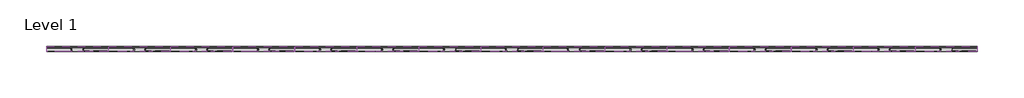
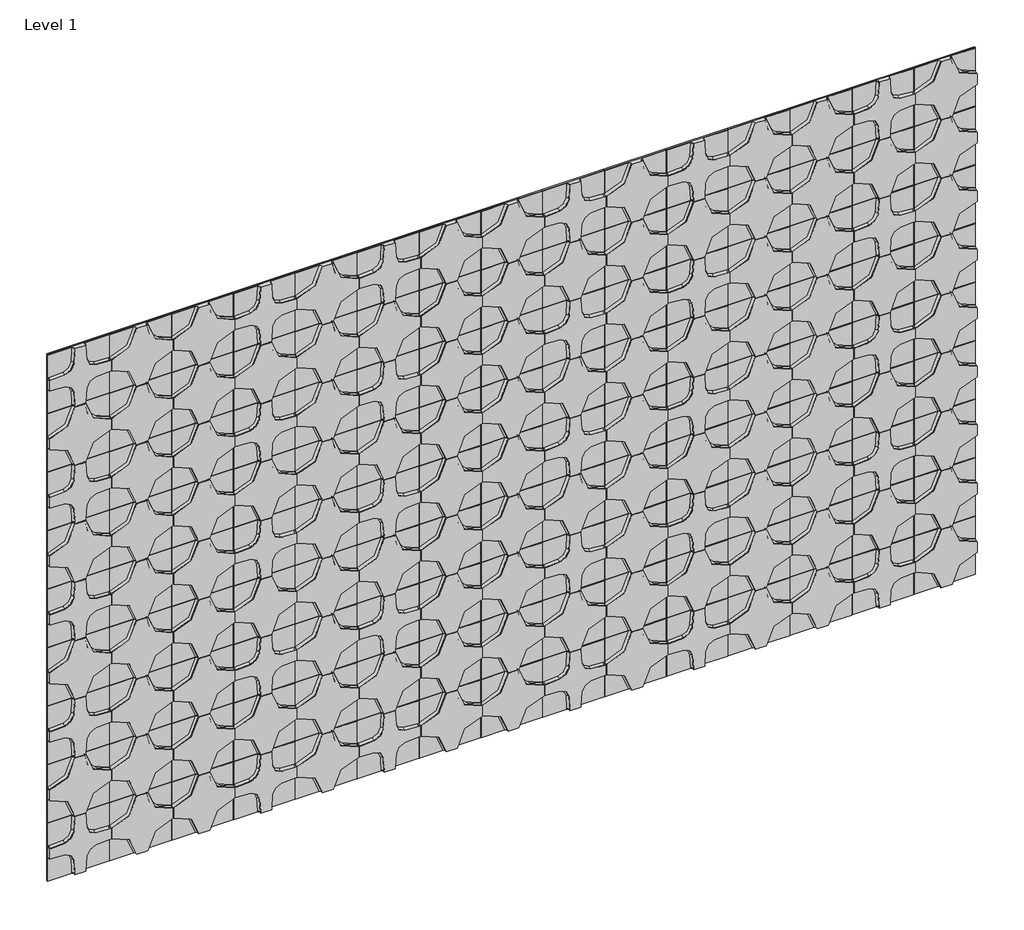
# One storey: 135 proxies.
"""IFC4 building model written with IfcOpenShell, lengths in millimetres."""

from ifc_helpers import new_model, si_unit, origin, place, context, project, spatial, transform, mapped, element, save
from components import specialty_equipment_d3eebbf5, specialty_equipment_d5421138

model = new_model("IFC4")

# Units and contexts
model_context = context("Model", 3, world=origin())
ifc_project = project(units=[si_unit("LENGTHUNIT", "METRE", prefix="MILLI")], contexts=[model_context])

# Site, building, storey
site = spatial("IfcSite", under=ifc_project)
building = spatial("IfcBuilding", under=site)
storey = spatial("IfcBuildingStorey", under=building, Name="Level 1", Elevation=0.0)

# Proxies
placement = place(None, origin())
specialty_equipment_shape = specialty_equipment_d3eebbf5(model_context)
element("IfcBuildingElementProxy", 1, Name="Spinneybeck_Quartile : Quartile 1", ObjectType="Spinneybeck_Quartile : Quartile 1", at=placement, inside=storey, context=model_context, shape_type="MappedRepresentation", body=[
    mapped(specialty_equipment_shape, transform((-9133.2606366, 2074.1714817, 2286.0), x_axis=(1.0, 0.0, 0.0), y_axis=(0.0, 0.0, 1.0), z_axis=(0.0, -1.0, 0.0))),
])
element("IfcBuildingElementProxy", 2, Name="Spinneybeck_Quartile : Quartile 1", ObjectType="Spinneybeck_Quartile : Quartile 1", at=placement, inside=storey, context=model_context, shape_type="MappedRepresentation", body=[
    mapped(specialty_equipment_shape, transform((-8828.4606366, 2074.1714817, 2286.0), x_axis=(1.0, 0.0, 0.0), y_axis=(0.0, 0.0, 1.0), z_axis=(0.0, -1.0, 0.0))),
])
element("IfcBuildingElementProxy", 3, Name="Spinneybeck_Quartile : Quartile 1", ObjectType="Spinneybeck_Quartile : Quartile 1", at=placement, inside=storey, context=model_context, shape_type="MappedRepresentation", body=[
    mapped(specialty_equipment_shape, transform((-8523.6606366, 2074.1714817, 2286.0), x_axis=(1.0, 0.0, 0.0), y_axis=(0.0, 0.0, 1.0), z_axis=(0.0, -1.0, 0.0))),
])
element("IfcBuildingElementProxy", 4, Name="Spinneybeck_Quartile : Quartile 1", ObjectType="Spinneybeck_Quartile : Quartile 1", at=placement, inside=storey, context=model_context, shape_type="MappedRepresentation", body=[
    mapped(specialty_equipment_shape, transform((-8218.8606366, 2074.1714817, 2286.0), x_axis=(1.0, 0.0, 0.0), y_axis=(0.0, 0.0, 1.0), z_axis=(0.0, -1.0, 0.0))),
])
element("IfcBuildingElementProxy", 5, Name="Spinneybeck_Quartile : Quartile 1", ObjectType="Spinneybeck_Quartile : Quartile 1", at=placement, inside=storey, context=model_context, shape_type="MappedRepresentation", body=[
    mapped(specialty_equipment_shape, transform((-7914.0606366, 2074.1714817, 2286.0), x_axis=(1.0, 0.0, 0.0), y_axis=(0.0, 0.0, 1.0), z_axis=(0.0, -1.0, 0.0))),
])
element("IfcBuildingElementProxy", 6, Name="Spinneybeck_Quartile : Quartile 1", ObjectType="Spinneybeck_Quartile : Quartile 1", at=placement, inside=storey, context=model_context, shape_type="MappedRepresentation", body=[
    mapped(specialty_equipment_shape, transform((-7609.2606366, 2074.1714817, 2286.0), x_axis=(1.0, 0.0, 0.0), y_axis=(0.0, 0.0, 1.0), z_axis=(0.0, -1.0, 0.0))),
])
element("IfcBuildingElementProxy", 7, Name="Spinneybeck_Quartile : Quartile 1", ObjectType="Spinneybeck_Quartile : Quartile 1", at=placement, inside=storey, context=model_context, shape_type="MappedRepresentation", body=[
    mapped(specialty_equipment_shape, transform((-7304.4606366, 2074.1714817, 2286.0), x_axis=(1.0, 0.0, 0.0), y_axis=(0.0, 0.0, 1.0), z_axis=(0.0, -1.0, 0.0))),
])
element("IfcBuildingElementProxy", 8, Name="Spinneybeck_Quartile : Quartile 1", ObjectType="Spinneybeck_Quartile : Quartile 1", at=placement, inside=storey, context=model_context, shape_type="MappedRepresentation", body=[
    mapped(specialty_equipment_shape, transform((-6999.6606366, 2074.1714817, 2286.0), x_axis=(1.0, 0.0, 0.0), y_axis=(0.0, 0.0, 1.0), z_axis=(0.0, -1.0, 0.0))),
])
element("IfcBuildingElementProxy", 9, Name="Spinneybeck_Quartile : Quartile 1", ObjectType="Spinneybeck_Quartile : Quartile 1", at=placement, inside=storey, context=model_context, shape_type="MappedRepresentation", body=[
    mapped(specialty_equipment_shape, transform((-6694.8606366, 2074.1714817, 2286.0), x_axis=(1.0, 0.0, 0.0), y_axis=(0.0, 0.0, 1.0), z_axis=(0.0, -1.0, 0.0))),
])
element("IfcBuildingElementProxy", 10, Name="Spinneybeck_Quartile : Quartile 1", ObjectType="Spinneybeck_Quartile : Quartile 1", at=placement, inside=storey, context=model_context, shape_type="MappedRepresentation", body=[
    mapped(specialty_equipment_shape, transform((-6390.0606366, 2074.1714817, 2286.0), x_axis=(1.0, 0.0, 0.0), y_axis=(0.0, 0.0, 1.0), z_axis=(0.0, -1.0, 0.0))),
])
element("IfcBuildingElementProxy", 11, Name="Spinneybeck_Quartile : Quartile 1", ObjectType="Spinneybeck_Quartile : Quartile 1", at=placement, inside=storey, context=model_context, shape_type="MappedRepresentation", body=[
    mapped(specialty_equipment_shape, transform((-6085.2606366, 2074.1714817, 2286.0), x_axis=(1.0, 0.0, 0.0), y_axis=(0.0, 0.0, 1.0), z_axis=(0.0, -1.0, 0.0))),
])
element("IfcBuildingElementProxy", 12, Name="Spinneybeck_Quartile : Quartile 1", ObjectType="Spinneybeck_Quartile : Quartile 1", at=placement, inside=storey, context=model_context, shape_type="MappedRepresentation", body=[
    mapped(specialty_equipment_shape, transform((-5780.4606366, 2074.1714817, 2286.0), x_axis=(1.0, 0.0, 0.0), y_axis=(0.0, 0.0, 1.0), z_axis=(0.0, -1.0, 0.0))),
])
element("IfcBuildingElementProxy", 13, Name="Spinneybeck_Quartile : Quartile 1", ObjectType="Spinneybeck_Quartile : Quartile 1", at=placement, inside=storey, context=model_context, shape_type="MappedRepresentation", body=[
    mapped(specialty_equipment_shape, transform((-5475.6606366, 2074.1714817, 2286.0), x_axis=(1.0, 0.0, 0.0), y_axis=(0.0, 0.0, 1.0), z_axis=(0.0, -1.0, 0.0))),
])
element("IfcBuildingElementProxy", 14, Name="Spinneybeck_Quartile : Quartile 1", ObjectType="Spinneybeck_Quartile : Quartile 1", at=placement, inside=storey, context=model_context, shape_type="MappedRepresentation", body=[
    mapped(specialty_equipment_shape, transform((-5170.8606366, 2074.1714817, 2286.0), x_axis=(1.0, 0.0, 0.0), y_axis=(0.0, 0.0, 1.0), z_axis=(0.0, -1.0, 0.0))),
])
element("IfcBuildingElementProxy", 15, Name="Spinneybeck_Quartile : Quartile 1", ObjectType="Spinneybeck_Quartile : Quartile 1", at=placement, inside=storey, context=model_context, shape_type="MappedRepresentation", body=[
    mapped(specialty_equipment_shape, transform((-4866.0606366, 2074.1714817, 2286.0), x_axis=(1.0, 0.0, 0.0), y_axis=(0.0, 0.0, 1.0), z_axis=(0.0, -1.0, 0.0))),
])
element("IfcBuildingElementProxy", 16, Name="Spinneybeck_Quartile : Quartile 1", ObjectType="Spinneybeck_Quartile : Quartile 1", at=placement, inside=storey, context=model_context, shape_type="MappedRepresentation", body=[
    mapped(specialty_equipment_shape, transform((-8828.4606366, 2074.1714817, 2590.8), x_axis=(1.0, 0.0, 0.0), y_axis=(0.0, 0.0, 1.0), z_axis=(0.0, -1.0, 0.0))),
])
element("IfcBuildingElementProxy", 17, Name="Spinneybeck_Quartile : Quartile 1", ObjectType="Spinneybeck_Quartile : Quartile 1", at=placement, inside=storey, context=model_context, shape_type="MappedRepresentation", body=[
    mapped(specialty_equipment_shape, transform((-8523.6606366, 2074.1714817, 2590.8), x_axis=(1.0, 0.0, 0.0), y_axis=(0.0, 0.0, 1.0), z_axis=(0.0, -1.0, 0.0))),
])
element("IfcBuildingElementProxy", 18, Name="Spinneybeck_Quartile : Quartile 1", ObjectType="Spinneybeck_Quartile : Quartile 1", at=placement, inside=storey, context=model_context, shape_type="MappedRepresentation", body=[
    mapped(specialty_equipment_shape, transform((-7914.0606366, 2074.1714817, 2590.8), x_axis=(1.0, 0.0, 0.0), y_axis=(0.0, 0.0, 1.0), z_axis=(0.0, -1.0, 0.0))),
])
element("IfcBuildingElementProxy", 19, Name="Spinneybeck_Quartile : Quartile 1", ObjectType="Spinneybeck_Quartile : Quartile 1", at=placement, inside=storey, context=model_context, shape_type="MappedRepresentation", body=[
    mapped(specialty_equipment_shape, transform((-7304.4606366, 2074.1714817, 2590.8), x_axis=(1.0, 0.0, 0.0), y_axis=(0.0, 0.0, 1.0), z_axis=(0.0, -1.0, 0.0))),
])
element("IfcBuildingElementProxy", 20, Name="Spinneybeck_Quartile : Quartile 1", ObjectType="Spinneybeck_Quartile : Quartile 1", at=placement, inside=storey, context=model_context, shape_type="MappedRepresentation", body=[
    mapped(specialty_equipment_shape, transform((-6999.6606366, 2074.1714817, 2590.8), x_axis=(1.0, 0.0, 0.0), y_axis=(0.0, 0.0, 1.0), z_axis=(0.0, -1.0, 0.0))),
])
element("IfcBuildingElementProxy", 21, Name="Spinneybeck_Quartile : Quartile 1", ObjectType="Spinneybeck_Quartile : Quartile 1", at=placement, inside=storey, context=model_context, shape_type="MappedRepresentation", body=[
    mapped(specialty_equipment_shape, transform((-6390.0606366, 2074.1714817, 2590.8), x_axis=(1.0, 0.0, 0.0), y_axis=(0.0, 0.0, 1.0), z_axis=(0.0, -1.0, 0.0))),
])
element("IfcBuildingElementProxy", 22, Name="Spinneybeck_Quartile : Quartile 1", ObjectType="Spinneybeck_Quartile : Quartile 1", at=placement, inside=storey, context=model_context, shape_type="MappedRepresentation", body=[
    mapped(specialty_equipment_shape, transform((-5780.4606366, 2074.1714817, 2590.8), x_axis=(1.0, 0.0, 0.0), y_axis=(0.0, 0.0, 1.0), z_axis=(0.0, -1.0, 0.0))),
])
element("IfcBuildingElementProxy", 23, Name="Spinneybeck_Quartile : Quartile 1", ObjectType="Spinneybeck_Quartile : Quartile 1", at=placement, inside=storey, context=model_context, shape_type="MappedRepresentation", body=[
    mapped(specialty_equipment_shape, transform((-5475.6606366, 2074.1714817, 2590.8), x_axis=(1.0, 0.0, 0.0), y_axis=(0.0, 0.0, 1.0), z_axis=(0.0, -1.0, 0.0))),
])
element("IfcBuildingElementProxy", 24, Name="Spinneybeck_Quartile : Quartile 1", ObjectType="Spinneybeck_Quartile : Quartile 1", at=placement, inside=storey, context=model_context, shape_type="MappedRepresentation", body=[
    mapped(specialty_equipment_shape, transform((-4866.0606366, 2074.1714817, 2590.8), x_axis=(1.0, 0.0, 0.0), y_axis=(0.0, 0.0, 1.0), z_axis=(0.0, -1.0, 0.0))),
])
element("IfcBuildingElementProxy", 25, Name="Spinneybeck_Quartile : Quartile 1", ObjectType="Spinneybeck_Quartile : Quartile 1", at=placement, inside=storey, context=model_context, shape_type="MappedRepresentation", body=[
    mapped(specialty_equipment_shape, transform((-9133.2606366, 2074.1714817, 1676.4), x_axis=(1.0, 0.0, 0.0), y_axis=(0.0, 0.0, 1.0), z_axis=(0.0, -1.0, 0.0))),
])
element("IfcBuildingElementProxy", 26, Name="Spinneybeck_Quartile : Quartile 1", ObjectType="Spinneybeck_Quartile : Quartile 1", at=placement, inside=storey, context=model_context, shape_type="MappedRepresentation", body=[
    mapped(specialty_equipment_shape, transform((-8828.4606366, 2074.1714817, 1676.4), x_axis=(1.0, 0.0, 0.0), y_axis=(0.0, 0.0, 1.0), z_axis=(0.0, -1.0, 0.0))),
])
element("IfcBuildingElementProxy", 27, Name="Spinneybeck_Quartile : Quartile 1", ObjectType="Spinneybeck_Quartile : Quartile 1", at=placement, inside=storey, context=model_context, shape_type="MappedRepresentation", body=[
    mapped(specialty_equipment_shape, transform((-8523.6606366, 2074.1714817, 1676.4), x_axis=(1.0, 0.0, 0.0), y_axis=(0.0, 0.0, 1.0), z_axis=(0.0, -1.0, 0.0))),
])
element("IfcBuildingElementProxy", 28, Name="Spinneybeck_Quartile : Quartile 1", ObjectType="Spinneybeck_Quartile : Quartile 1", at=placement, inside=storey, context=model_context, shape_type="MappedRepresentation", body=[
    mapped(specialty_equipment_shape, transform((-8218.8606366, 2074.1714817, 1676.4), x_axis=(1.0, 0.0, 0.0), y_axis=(0.0, 0.0, 1.0), z_axis=(0.0, -1.0, 0.0))),
])
element("IfcBuildingElementProxy", 29, Name="Spinneybeck_Quartile : Quartile 1", ObjectType="Spinneybeck_Quartile : Quartile 1", at=placement, inside=storey, context=model_context, shape_type="MappedRepresentation", body=[
    mapped(specialty_equipment_shape, transform((-7914.0606366, 2074.1714817, 1676.4), x_axis=(1.0, 0.0, 0.0), y_axis=(0.0, 0.0, 1.0), z_axis=(0.0, -1.0, 0.0))),
])
element("IfcBuildingElementProxy", 30, Name="Spinneybeck_Quartile : Quartile 1", ObjectType="Spinneybeck_Quartile : Quartile 1", at=placement, inside=storey, context=model_context, shape_type="MappedRepresentation", body=[
    mapped(specialty_equipment_shape, transform((-7609.2606366, 2074.1714817, 1676.4), x_axis=(1.0, 0.0, 0.0), y_axis=(0.0, 0.0, 1.0), z_axis=(0.0, -1.0, 0.0))),
])
element("IfcBuildingElementProxy", 31, Name="Spinneybeck_Quartile : Quartile 1", ObjectType="Spinneybeck_Quartile : Quartile 1", at=placement, inside=storey, context=model_context, shape_type="MappedRepresentation", body=[
    mapped(specialty_equipment_shape, transform((-7304.4606366, 2074.1714817, 1676.4), x_axis=(1.0, 0.0, 0.0), y_axis=(0.0, 0.0, 1.0), z_axis=(0.0, -1.0, 0.0))),
])
element("IfcBuildingElementProxy", 32, Name="Spinneybeck_Quartile : Quartile 1", ObjectType="Spinneybeck_Quartile : Quartile 1", at=placement, inside=storey, context=model_context, shape_type="MappedRepresentation", body=[
    mapped(specialty_equipment_shape, transform((-6999.6606366, 2074.1714817, 1676.4), x_axis=(1.0, 0.0, 0.0), y_axis=(0.0, 0.0, 1.0), z_axis=(0.0, -1.0, 0.0))),
])
element("IfcBuildingElementProxy", 33, Name="Spinneybeck_Quartile : Quartile 1", ObjectType="Spinneybeck_Quartile : Quartile 1", at=placement, inside=storey, context=model_context, shape_type="MappedRepresentation", body=[
    mapped(specialty_equipment_shape, transform((-6694.8606366, 2074.1714817, 1676.4), x_axis=(1.0, 0.0, 0.0), y_axis=(0.0, 0.0, 1.0), z_axis=(0.0, -1.0, 0.0))),
])
element("IfcBuildingElementProxy", 34, Name="Spinneybeck_Quartile : Quartile 1", ObjectType="Spinneybeck_Quartile : Quartile 1", at=placement, inside=storey, context=model_context, shape_type="MappedRepresentation", body=[
    mapped(specialty_equipment_shape, transform((-6390.0606366, 2074.1714817, 1676.4), x_axis=(1.0, 0.0, 0.0), y_axis=(0.0, 0.0, 1.0), z_axis=(0.0, -1.0, 0.0))),
])
element("IfcBuildingElementProxy", 35, Name="Spinneybeck_Quartile : Quartile 1", ObjectType="Spinneybeck_Quartile : Quartile 1", at=placement, inside=storey, context=model_context, shape_type="MappedRepresentation", body=[
    mapped(specialty_equipment_shape, transform((-6085.2606366, 2074.1714817, 1676.4), x_axis=(1.0, 0.0, 0.0), y_axis=(0.0, 0.0, 1.0), z_axis=(0.0, -1.0, 0.0))),
])
element("IfcBuildingElementProxy", 36, Name="Spinneybeck_Quartile : Quartile 1", ObjectType="Spinneybeck_Quartile : Quartile 1", at=placement, inside=storey, context=model_context, shape_type="MappedRepresentation", body=[
    mapped(specialty_equipment_shape, transform((-5780.4606366, 2074.1714817, 1676.4), x_axis=(1.0, 0.0, 0.0), y_axis=(0.0, 0.0, 1.0), z_axis=(0.0, -1.0, 0.0))),
])
element("IfcBuildingElementProxy", 37, Name="Spinneybeck_Quartile : Quartile 1", ObjectType="Spinneybeck_Quartile : Quartile 1", at=placement, inside=storey, context=model_context, shape_type="MappedRepresentation", body=[
    mapped(specialty_equipment_shape, transform((-5475.6606366, 2074.1714817, 1676.4), x_axis=(1.0, 0.0, 0.0), y_axis=(0.0, 0.0, 1.0), z_axis=(0.0, -1.0, 0.0))),
])
element("IfcBuildingElementProxy", 38, Name="Spinneybeck_Quartile : Quartile 1", ObjectType="Spinneybeck_Quartile : Quartile 1", at=placement, inside=storey, context=model_context, shape_type="MappedRepresentation", body=[
    mapped(specialty_equipment_shape, transform((-5170.8606366, 2074.1714817, 1676.4), x_axis=(1.0, 0.0, 0.0), y_axis=(0.0, 0.0, 1.0), z_axis=(0.0, -1.0, 0.0))),
])
element("IfcBuildingElementProxy", 39, Name="Spinneybeck_Quartile : Quartile 1", ObjectType="Spinneybeck_Quartile : Quartile 1", at=placement, inside=storey, context=model_context, shape_type="MappedRepresentation", body=[
    mapped(specialty_equipment_shape, transform((-4866.0606366, 2074.1714817, 1676.4), x_axis=(1.0, 0.0, 0.0), y_axis=(0.0, 0.0, 1.0), z_axis=(0.0, -1.0, 0.0))),
])
element("IfcBuildingElementProxy", 40, Name="Spinneybeck_Quartile : Quartile 1", ObjectType="Spinneybeck_Quartile : Quartile 1", at=placement, inside=storey, context=model_context, shape_type="MappedRepresentation", body=[
    mapped(specialty_equipment_shape, transform((-8828.4606366, 2074.1714817, 1981.2), x_axis=(1.0, 0.0, 0.0), y_axis=(0.0, 0.0, 1.0), z_axis=(0.0, -1.0, 0.0))),
])
element("IfcBuildingElementProxy", 41, Name="Spinneybeck_Quartile : Quartile 1", ObjectType="Spinneybeck_Quartile : Quartile 1", at=placement, inside=storey, context=model_context, shape_type="MappedRepresentation", body=[
    mapped(specialty_equipment_shape, transform((-8523.6606366, 2074.1714817, 1981.2), x_axis=(1.0, 0.0, 0.0), y_axis=(0.0, 0.0, 1.0), z_axis=(0.0, -1.0, 0.0))),
])
element("IfcBuildingElementProxy", 42, Name="Spinneybeck_Quartile : Quartile 1", ObjectType="Spinneybeck_Quartile : Quartile 1", at=placement, inside=storey, context=model_context, shape_type="MappedRepresentation", body=[
    mapped(specialty_equipment_shape, transform((-7914.0606366, 2074.1714817, 1981.2), x_axis=(1.0, 0.0, 0.0), y_axis=(0.0, 0.0, 1.0), z_axis=(0.0, -1.0, 0.0))),
])
element("IfcBuildingElementProxy", 43, Name="Spinneybeck_Quartile : Quartile 1", ObjectType="Spinneybeck_Quartile : Quartile 1", at=placement, inside=storey, context=model_context, shape_type="MappedRepresentation", body=[
    mapped(specialty_equipment_shape, transform((-7304.4606366, 2074.1714817, 1981.2), x_axis=(1.0, 0.0, 0.0), y_axis=(0.0, 0.0, 1.0), z_axis=(0.0, -1.0, 0.0))),
])
element("IfcBuildingElementProxy", 44, Name="Spinneybeck_Quartile : Quartile 1", ObjectType="Spinneybeck_Quartile : Quartile 1", at=placement, inside=storey, context=model_context, shape_type="MappedRepresentation", body=[
    mapped(specialty_equipment_shape, transform((-6999.6606366, 2074.1714817, 1981.2), x_axis=(1.0, 0.0, 0.0), y_axis=(0.0, 0.0, 1.0), z_axis=(0.0, -1.0, 0.0))),
])
element("IfcBuildingElementProxy", 45, Name="Spinneybeck_Quartile : Quartile 1", ObjectType="Spinneybeck_Quartile : Quartile 1", at=placement, inside=storey, context=model_context, shape_type="MappedRepresentation", body=[
    mapped(specialty_equipment_shape, transform((-6390.0606366, 2074.1714817, 1981.2), x_axis=(1.0, 0.0, 0.0), y_axis=(0.0, 0.0, 1.0), z_axis=(0.0, -1.0, 0.0))),
])
element("IfcBuildingElementProxy", 46, Name="Spinneybeck_Quartile : Quartile 1", ObjectType="Spinneybeck_Quartile : Quartile 1", at=placement, inside=storey, context=model_context, shape_type="MappedRepresentation", body=[
    mapped(specialty_equipment_shape, transform((-5780.4606366, 2074.1714817, 1981.2), x_axis=(1.0, 0.0, 0.0), y_axis=(0.0, 0.0, 1.0), z_axis=(0.0, -1.0, 0.0))),
])
element("IfcBuildingElementProxy", 47, Name="Spinneybeck_Quartile : Quartile 1", ObjectType="Spinneybeck_Quartile : Quartile 1", at=placement, inside=storey, context=model_context, shape_type="MappedRepresentation", body=[
    mapped(specialty_equipment_shape, transform((-5475.6606366, 2074.1714817, 1981.2), x_axis=(1.0, 0.0, 0.0), y_axis=(0.0, 0.0, 1.0), z_axis=(0.0, -1.0, 0.0))),
])
element("IfcBuildingElementProxy", 48, Name="Spinneybeck_Quartile : Quartile 1", ObjectType="Spinneybeck_Quartile : Quartile 1", at=placement, inside=storey, context=model_context, shape_type="MappedRepresentation", body=[
    mapped(specialty_equipment_shape, transform((-4866.0606366, 2074.1714817, 1981.2), x_axis=(1.0, 0.0, 0.0), y_axis=(0.0, 0.0, 1.0), z_axis=(0.0, -1.0, 0.0))),
])
element("IfcBuildingElementProxy", 49, Name="Spinneybeck_Quartile : Quartile 1", ObjectType="Spinneybeck_Quartile : Quartile 1", at=placement, inside=storey, context=model_context, shape_type="MappedRepresentation", body=[
    mapped(specialty_equipment_shape, transform((-9133.2606366, 2074.1714817, 1066.8), x_axis=(1.0, 0.0, 0.0), y_axis=(0.0, 0.0, 1.0), z_axis=(0.0, -1.0, 0.0))),
])
element("IfcBuildingElementProxy", 50, Name="Spinneybeck_Quartile : Quartile 1", ObjectType="Spinneybeck_Quartile : Quartile 1", at=placement, inside=storey, context=model_context, shape_type="MappedRepresentation", body=[
    mapped(specialty_equipment_shape, transform((-8828.4606366, 2074.1714817, 1066.8), x_axis=(1.0, 0.0, 0.0), y_axis=(0.0, 0.0, 1.0), z_axis=(0.0, -1.0, 0.0))),
])
element("IfcBuildingElementProxy", 51, Name="Spinneybeck_Quartile : Quartile 1", ObjectType="Spinneybeck_Quartile : Quartile 1", at=placement, inside=storey, context=model_context, shape_type="MappedRepresentation", body=[
    mapped(specialty_equipment_shape, transform((-8523.6606366, 2074.1714817, 1066.8), x_axis=(1.0, 0.0, 0.0), y_axis=(0.0, 0.0, 1.0), z_axis=(0.0, -1.0, 0.0))),
])
element("IfcBuildingElementProxy", 52, Name="Spinneybeck_Quartile : Quartile 1", ObjectType="Spinneybeck_Quartile : Quartile 1", at=placement, inside=storey, context=model_context, shape_type="MappedRepresentation", body=[
    mapped(specialty_equipment_shape, transform((-8218.8606366, 2074.1714817, 1066.8), x_axis=(1.0, 0.0, 0.0), y_axis=(0.0, 0.0, 1.0), z_axis=(0.0, -1.0, 0.0))),
])
element("IfcBuildingElementProxy", 53, Name="Spinneybeck_Quartile : Quartile 1", ObjectType="Spinneybeck_Quartile : Quartile 1", at=placement, inside=storey, context=model_context, shape_type="MappedRepresentation", body=[
    mapped(specialty_equipment_shape, transform((-7914.0606366, 2074.1714817, 1066.8), x_axis=(1.0, 0.0, 0.0), y_axis=(0.0, 0.0, 1.0), z_axis=(0.0, -1.0, 0.0))),
])
element("IfcBuildingElementProxy", 54, Name="Spinneybeck_Quartile : Quartile 1", ObjectType="Spinneybeck_Quartile : Quartile 1", at=placement, inside=storey, context=model_context, shape_type="MappedRepresentation", body=[
    mapped(specialty_equipment_shape, transform((-7609.2606366, 2074.1714817, 1066.8), x_axis=(1.0, 0.0, 0.0), y_axis=(0.0, 0.0, 1.0), z_axis=(0.0, -1.0, 0.0))),
])
element("IfcBuildingElementProxy", 55, Name="Spinneybeck_Quartile : Quartile 1", ObjectType="Spinneybeck_Quartile : Quartile 1", at=placement, inside=storey, context=model_context, shape_type="MappedRepresentation", body=[
    mapped(specialty_equipment_shape, transform((-7304.4606366, 2074.1714817, 1066.8), x_axis=(1.0, 0.0, 0.0), y_axis=(0.0, 0.0, 1.0), z_axis=(0.0, -1.0, 0.0))),
])
element("IfcBuildingElementProxy", 56, Name="Spinneybeck_Quartile : Quartile 1", ObjectType="Spinneybeck_Quartile : Quartile 1", at=placement, inside=storey, context=model_context, shape_type="MappedRepresentation", body=[
    mapped(specialty_equipment_shape, transform((-6999.6606366, 2074.1714817, 1066.8), x_axis=(1.0, 0.0, 0.0), y_axis=(0.0, 0.0, 1.0), z_axis=(0.0, -1.0, 0.0))),
])
element("IfcBuildingElementProxy", 57, Name="Spinneybeck_Quartile : Quartile 1", ObjectType="Spinneybeck_Quartile : Quartile 1", at=placement, inside=storey, context=model_context, shape_type="MappedRepresentation", body=[
    mapped(specialty_equipment_shape, transform((-6694.8606366, 2074.1714817, 1066.8), x_axis=(1.0, 0.0, 0.0), y_axis=(0.0, 0.0, 1.0), z_axis=(0.0, -1.0, 0.0))),
])
element("IfcBuildingElementProxy", 58, Name="Spinneybeck_Quartile : Quartile 1", ObjectType="Spinneybeck_Quartile : Quartile 1", at=placement, inside=storey, context=model_context, shape_type="MappedRepresentation", body=[
    mapped(specialty_equipment_shape, transform((-6390.0606366, 2074.1714817, 1066.8), x_axis=(1.0, 0.0, 0.0), y_axis=(0.0, 0.0, 1.0), z_axis=(0.0, -1.0, 0.0))),
])
element("IfcBuildingElementProxy", 59, Name="Spinneybeck_Quartile : Quartile 1", ObjectType="Spinneybeck_Quartile : Quartile 1", at=placement, inside=storey, context=model_context, shape_type="MappedRepresentation", body=[
    mapped(specialty_equipment_shape, transform((-6085.2606366, 2074.1714817, 1066.8), x_axis=(1.0, 0.0, 0.0), y_axis=(0.0, 0.0, 1.0), z_axis=(0.0, -1.0, 0.0))),
])
element("IfcBuildingElementProxy", 60, Name="Spinneybeck_Quartile : Quartile 1", ObjectType="Spinneybeck_Quartile : Quartile 1", at=placement, inside=storey, context=model_context, shape_type="MappedRepresentation", body=[
    mapped(specialty_equipment_shape, transform((-5780.4606366, 2074.1714817, 1066.8), x_axis=(1.0, 0.0, 0.0), y_axis=(0.0, 0.0, 1.0), z_axis=(0.0, -1.0, 0.0))),
])
element("IfcBuildingElementProxy", 61, Name="Spinneybeck_Quartile : Quartile 1", ObjectType="Spinneybeck_Quartile : Quartile 1", at=placement, inside=storey, context=model_context, shape_type="MappedRepresentation", body=[
    mapped(specialty_equipment_shape, transform((-5475.6606366, 2074.1714817, 1066.8), x_axis=(1.0, 0.0, 0.0), y_axis=(0.0, 0.0, 1.0), z_axis=(0.0, -1.0, 0.0))),
])
element("IfcBuildingElementProxy", 62, Name="Spinneybeck_Quartile : Quartile 1", ObjectType="Spinneybeck_Quartile : Quartile 1", at=placement, inside=storey, context=model_context, shape_type="MappedRepresentation", body=[
    mapped(specialty_equipment_shape, transform((-5170.8606366, 2074.1714817, 1066.8), x_axis=(1.0, 0.0, 0.0), y_axis=(0.0, 0.0, 1.0), z_axis=(0.0, -1.0, 0.0))),
])
element("IfcBuildingElementProxy", 63, Name="Spinneybeck_Quartile : Quartile 1", ObjectType="Spinneybeck_Quartile : Quartile 1", at=placement, inside=storey, context=model_context, shape_type="MappedRepresentation", body=[
    mapped(specialty_equipment_shape, transform((-4866.0606366, 2074.1714817, 1066.8), x_axis=(1.0, 0.0, 0.0), y_axis=(0.0, 0.0, 1.0), z_axis=(0.0, -1.0, 0.0))),
])
element("IfcBuildingElementProxy", 64, Name="Spinneybeck_Quartile : Quartile 1", ObjectType="Spinneybeck_Quartile : Quartile 1", at=placement, inside=storey, context=model_context, shape_type="MappedRepresentation", body=[
    mapped(specialty_equipment_shape, transform((-8828.4606366, 2074.1714817, 1371.6), x_axis=(1.0, 0.0, 0.0), y_axis=(0.0, 0.0, 1.0), z_axis=(0.0, -1.0, 0.0))),
])
element("IfcBuildingElementProxy", 65, Name="Spinneybeck_Quartile : Quartile 1", ObjectType="Spinneybeck_Quartile : Quartile 1", at=placement, inside=storey, context=model_context, shape_type="MappedRepresentation", body=[
    mapped(specialty_equipment_shape, transform((-8523.6606366, 2074.1714817, 1371.6), x_axis=(1.0, 0.0, 0.0), y_axis=(0.0, 0.0, 1.0), z_axis=(0.0, -1.0, 0.0))),
])
element("IfcBuildingElementProxy", 66, Name="Spinneybeck_Quartile : Quartile 1", ObjectType="Spinneybeck_Quartile : Quartile 1", at=placement, inside=storey, context=model_context, shape_type="MappedRepresentation", body=[
    mapped(specialty_equipment_shape, transform((-7914.0606366, 2074.1714817, 1371.6), x_axis=(1.0, 0.0, 0.0), y_axis=(0.0, 0.0, 1.0), z_axis=(0.0, -1.0, 0.0))),
])
element("IfcBuildingElementProxy", 67, Name="Spinneybeck_Quartile : Quartile 1", ObjectType="Spinneybeck_Quartile : Quartile 1", at=placement, inside=storey, context=model_context, shape_type="MappedRepresentation", body=[
    mapped(specialty_equipment_shape, transform((-7304.4606366, 2074.1714817, 1371.6), x_axis=(1.0, 0.0, 0.0), y_axis=(0.0, 0.0, 1.0), z_axis=(0.0, -1.0, 0.0))),
])
element("IfcBuildingElementProxy", 68, Name="Spinneybeck_Quartile : Quartile 1", ObjectType="Spinneybeck_Quartile : Quartile 1", at=placement, inside=storey, context=model_context, shape_type="MappedRepresentation", body=[
    mapped(specialty_equipment_shape, transform((-6999.6606366, 2074.1714817, 1371.6), x_axis=(1.0, 0.0, 0.0), y_axis=(0.0, 0.0, 1.0), z_axis=(0.0, -1.0, 0.0))),
])
element("IfcBuildingElementProxy", 69, Name="Spinneybeck_Quartile : Quartile 1", ObjectType="Spinneybeck_Quartile : Quartile 1", at=placement, inside=storey, context=model_context, shape_type="MappedRepresentation", body=[
    mapped(specialty_equipment_shape, transform((-6390.0606366, 2074.1714817, 1371.6), x_axis=(1.0, 0.0, 0.0), y_axis=(0.0, 0.0, 1.0), z_axis=(0.0, -1.0, 0.0))),
])
element("IfcBuildingElementProxy", 70, Name="Spinneybeck_Quartile : Quartile 1", ObjectType="Spinneybeck_Quartile : Quartile 1", at=placement, inside=storey, context=model_context, shape_type="MappedRepresentation", body=[
    mapped(specialty_equipment_shape, transform((-5780.4606366, 2074.1714817, 1371.6), x_axis=(1.0, 0.0, 0.0), y_axis=(0.0, 0.0, 1.0), z_axis=(0.0, -1.0, 0.0))),
])
element("IfcBuildingElementProxy", 71, Name="Spinneybeck_Quartile : Quartile 1", ObjectType="Spinneybeck_Quartile : Quartile 1", at=placement, inside=storey, context=model_context, shape_type="MappedRepresentation", body=[
    mapped(specialty_equipment_shape, transform((-5475.6606366, 2074.1714817, 1371.6), x_axis=(1.0, 0.0, 0.0), y_axis=(0.0, 0.0, 1.0), z_axis=(0.0, -1.0, 0.0))),
])
element("IfcBuildingElementProxy", 72, Name="Spinneybeck_Quartile : Quartile 1", ObjectType="Spinneybeck_Quartile : Quartile 1", at=placement, inside=storey, context=model_context, shape_type="MappedRepresentation", body=[
    mapped(specialty_equipment_shape, transform((-4866.0606366, 2074.1714817, 1371.6), x_axis=(1.0, 0.0, 0.0), y_axis=(0.0, 0.0, 1.0), z_axis=(0.0, -1.0, 0.0))),
])
element("IfcBuildingElementProxy", 73, Name="Spinneybeck_Quartile : Quartile 1", ObjectType="Spinneybeck_Quartile : Quartile 1", at=placement, inside=storey, context=model_context, shape_type="MappedRepresentation", body=[
    mapped(specialty_equipment_shape, transform((-9133.2606366, 2074.1714817, 457.2), x_axis=(1.0, 0.0, 0.0), y_axis=(0.0, 0.0, 1.0), z_axis=(0.0, -1.0, 0.0))),
])
element("IfcBuildingElementProxy", 74, Name="Spinneybeck_Quartile : Quartile 1", ObjectType="Spinneybeck_Quartile : Quartile 1", at=placement, inside=storey, context=model_context, shape_type="MappedRepresentation", body=[
    mapped(specialty_equipment_shape, transform((-8828.4606366, 2074.1714817, 457.2), x_axis=(1.0, 0.0, 0.0), y_axis=(0.0, 0.0, 1.0), z_axis=(0.0, -1.0, 0.0))),
])
element("IfcBuildingElementProxy", 75, Name="Spinneybeck_Quartile : Quartile 1", ObjectType="Spinneybeck_Quartile : Quartile 1", at=placement, inside=storey, context=model_context, shape_type="MappedRepresentation", body=[
    mapped(specialty_equipment_shape, transform((-8523.6606366, 2074.1714817, 457.2), x_axis=(1.0, 0.0, 0.0), y_axis=(0.0, 0.0, 1.0), z_axis=(0.0, -1.0, 0.0))),
])
element("IfcBuildingElementProxy", 76, Name="Spinneybeck_Quartile : Quartile 1", ObjectType="Spinneybeck_Quartile : Quartile 1", at=placement, inside=storey, context=model_context, shape_type="MappedRepresentation", body=[
    mapped(specialty_equipment_shape, transform((-8218.8606366, 2074.1714817, 457.2), x_axis=(1.0, 0.0, 0.0), y_axis=(0.0, 0.0, 1.0), z_axis=(0.0, -1.0, 0.0))),
])
element("IfcBuildingElementProxy", 77, Name="Spinneybeck_Quartile : Quartile 1", ObjectType="Spinneybeck_Quartile : Quartile 1", at=placement, inside=storey, context=model_context, shape_type="MappedRepresentation", body=[
    mapped(specialty_equipment_shape, transform((-7914.0606366, 2074.1714817, 457.2), x_axis=(1.0, 0.0, 0.0), y_axis=(0.0, 0.0, 1.0), z_axis=(0.0, -1.0, 0.0))),
])
element("IfcBuildingElementProxy", 78, Name="Spinneybeck_Quartile : Quartile 1", ObjectType="Spinneybeck_Quartile : Quartile 1", at=placement, inside=storey, context=model_context, shape_type="MappedRepresentation", body=[
    mapped(specialty_equipment_shape, transform((-7609.2606366, 2074.1714817, 457.2), x_axis=(1.0, 0.0, 0.0), y_axis=(0.0, 0.0, 1.0), z_axis=(0.0, -1.0, 0.0))),
])
element("IfcBuildingElementProxy", 79, Name="Spinneybeck_Quartile : Quartile 1", ObjectType="Spinneybeck_Quartile : Quartile 1", at=placement, inside=storey, context=model_context, shape_type="MappedRepresentation", body=[
    mapped(specialty_equipment_shape, transform((-7304.4606366, 2074.1714817, 457.2), x_axis=(1.0, 0.0, 0.0), y_axis=(0.0, 0.0, 1.0), z_axis=(0.0, -1.0, 0.0))),
])
element("IfcBuildingElementProxy", 80, Name="Spinneybeck_Quartile : Quartile 1", ObjectType="Spinneybeck_Quartile : Quartile 1", at=placement, inside=storey, context=model_context, shape_type="MappedRepresentation", body=[
    mapped(specialty_equipment_shape, transform((-6999.6606366, 2074.1714817, 457.2), x_axis=(1.0, 0.0, 0.0), y_axis=(0.0, 0.0, 1.0), z_axis=(0.0, -1.0, 0.0))),
])
element("IfcBuildingElementProxy", 81, Name="Spinneybeck_Quartile : Quartile 1", ObjectType="Spinneybeck_Quartile : Quartile 1", at=placement, inside=storey, context=model_context, shape_type="MappedRepresentation", body=[
    mapped(specialty_equipment_shape, transform((-6694.8606366, 2074.1714817, 457.2), x_axis=(1.0, 0.0, 0.0), y_axis=(0.0, 0.0, 1.0), z_axis=(0.0, -1.0, 0.0))),
])
element("IfcBuildingElementProxy", 82, Name="Spinneybeck_Quartile : Quartile 1", ObjectType="Spinneybeck_Quartile : Quartile 1", at=placement, inside=storey, context=model_context, shape_type="MappedRepresentation", body=[
    mapped(specialty_equipment_shape, transform((-6390.0606366, 2074.1714817, 457.2), x_axis=(1.0, 0.0, 0.0), y_axis=(0.0, 0.0, 1.0), z_axis=(0.0, -1.0, 0.0))),
])
element("IfcBuildingElementProxy", 83, Name="Spinneybeck_Quartile : Quartile 1", ObjectType="Spinneybeck_Quartile : Quartile 1", at=placement, inside=storey, context=model_context, shape_type="MappedRepresentation", body=[
    mapped(specialty_equipment_shape, transform((-6085.2606366, 2074.1714817, 457.2), x_axis=(1.0, 0.0, 0.0), y_axis=(0.0, 0.0, 1.0), z_axis=(0.0, -1.0, 0.0))),
])
element("IfcBuildingElementProxy", 84, Name="Spinneybeck_Quartile : Quartile 1", ObjectType="Spinneybeck_Quartile : Quartile 1", at=placement, inside=storey, context=model_context, shape_type="MappedRepresentation", body=[
    mapped(specialty_equipment_shape, transform((-5780.4606366, 2074.1714817, 457.2), x_axis=(1.0, 0.0, 0.0), y_axis=(0.0, 0.0, 1.0), z_axis=(0.0, -1.0, 0.0))),
])
element("IfcBuildingElementProxy", 85, Name="Spinneybeck_Quartile : Quartile 1", ObjectType="Spinneybeck_Quartile : Quartile 1", at=placement, inside=storey, context=model_context, shape_type="MappedRepresentation", body=[
    mapped(specialty_equipment_shape, transform((-5475.6606366, 2074.1714817, 457.2), x_axis=(1.0, 0.0, 0.0), y_axis=(0.0, 0.0, 1.0), z_axis=(0.0, -1.0, 0.0))),
])
element("IfcBuildingElementProxy", 86, Name="Spinneybeck_Quartile : Quartile 1", ObjectType="Spinneybeck_Quartile : Quartile 1", at=placement, inside=storey, context=model_context, shape_type="MappedRepresentation", body=[
    mapped(specialty_equipment_shape, transform((-5170.8606366, 2074.1714817, 457.2), x_axis=(1.0, 0.0, 0.0), y_axis=(0.0, 0.0, 1.0), z_axis=(0.0, -1.0, 0.0))),
])
element("IfcBuildingElementProxy", 87, Name="Spinneybeck_Quartile : Quartile 1", ObjectType="Spinneybeck_Quartile : Quartile 1", at=placement, inside=storey, context=model_context, shape_type="MappedRepresentation", body=[
    mapped(specialty_equipment_shape, transform((-4866.0606366, 2074.1714817, 457.2), x_axis=(1.0, 0.0, 0.0), y_axis=(0.0, 0.0, 1.0), z_axis=(0.0, -1.0, 0.0))),
])
element("IfcBuildingElementProxy", 88, Name="Spinneybeck_Quartile : Quartile 1", ObjectType="Spinneybeck_Quartile : Quartile 1", at=placement, inside=storey, context=model_context, shape_type="MappedRepresentation", body=[
    mapped(specialty_equipment_shape, transform((-8828.4606366, 2074.1714817, 762.0), x_axis=(1.0, 0.0, 0.0), y_axis=(0.0, 0.0, 1.0), z_axis=(0.0, -1.0, 0.0))),
])
element("IfcBuildingElementProxy", 89, Name="Spinneybeck_Quartile : Quartile 1", ObjectType="Spinneybeck_Quartile : Quartile 1", at=placement, inside=storey, context=model_context, shape_type="MappedRepresentation", body=[
    mapped(specialty_equipment_shape, transform((-8523.6606366, 2074.1714817, 762.0), x_axis=(1.0, 0.0, 0.0), y_axis=(0.0, 0.0, 1.0), z_axis=(0.0, -1.0, 0.0))),
])
element("IfcBuildingElementProxy", 90, Name="Spinneybeck_Quartile : Quartile 1", ObjectType="Spinneybeck_Quartile : Quartile 1", at=placement, inside=storey, context=model_context, shape_type="MappedRepresentation", body=[
    mapped(specialty_equipment_shape, transform((-7914.0606366, 2074.1714817, 762.0), x_axis=(1.0, 0.0, 0.0), y_axis=(0.0, 0.0, 1.0), z_axis=(0.0, -1.0, 0.0))),
])
element("IfcBuildingElementProxy", 91, Name="Spinneybeck_Quartile : Quartile 1", ObjectType="Spinneybeck_Quartile : Quartile 1", at=placement, inside=storey, context=model_context, shape_type="MappedRepresentation", body=[
    mapped(specialty_equipment_shape, transform((-7304.4606366, 2074.1714817, 762.0), x_axis=(1.0, 0.0, 0.0), y_axis=(0.0, 0.0, 1.0), z_axis=(0.0, -1.0, 0.0))),
])
element("IfcBuildingElementProxy", 92, Name="Spinneybeck_Quartile : Quartile 1", ObjectType="Spinneybeck_Quartile : Quartile 1", at=placement, inside=storey, context=model_context, shape_type="MappedRepresentation", body=[
    mapped(specialty_equipment_shape, transform((-6999.6606366, 2074.1714817, 762.0), x_axis=(1.0, 0.0, 0.0), y_axis=(0.0, 0.0, 1.0), z_axis=(0.0, -1.0, 0.0))),
])
element("IfcBuildingElementProxy", 93, Name="Spinneybeck_Quartile : Quartile 1", ObjectType="Spinneybeck_Quartile : Quartile 1", at=placement, inside=storey, context=model_context, shape_type="MappedRepresentation", body=[
    mapped(specialty_equipment_shape, transform((-6390.0606366, 2074.1714817, 762.0), x_axis=(1.0, 0.0, 0.0), y_axis=(0.0, 0.0, 1.0), z_axis=(0.0, -1.0, 0.0))),
])
element("IfcBuildingElementProxy", 94, Name="Spinneybeck_Quartile : Quartile 1", ObjectType="Spinneybeck_Quartile : Quartile 1", at=placement, inside=storey, context=model_context, shape_type="MappedRepresentation", body=[
    mapped(specialty_equipment_shape, transform((-5780.4606366, 2074.1714817, 762.0), x_axis=(1.0, 0.0, 0.0), y_axis=(0.0, 0.0, 1.0), z_axis=(0.0, -1.0, 0.0))),
])
element("IfcBuildingElementProxy", 95, Name="Spinneybeck_Quartile : Quartile 1", ObjectType="Spinneybeck_Quartile : Quartile 1", at=placement, inside=storey, context=model_context, shape_type="MappedRepresentation", body=[
    mapped(specialty_equipment_shape, transform((-5475.6606366, 2074.1714817, 762.0), x_axis=(1.0, 0.0, 0.0), y_axis=(0.0, 0.0, 1.0), z_axis=(0.0, -1.0, 0.0))),
])
element("IfcBuildingElementProxy", 96, Name="Spinneybeck_Quartile : Quartile 1", ObjectType="Spinneybeck_Quartile : Quartile 1", at=placement, inside=storey, context=model_context, shape_type="MappedRepresentation", body=[
    mapped(specialty_equipment_shape, transform((-4866.0606366, 2074.1714817, 762.0), x_axis=(1.0, 0.0, 0.0), y_axis=(0.0, 0.0, 1.0), z_axis=(0.0, -1.0, 0.0))),
])
element("IfcBuildingElementProxy", 97, Name="Spinneybeck_Quartile : Quartile 1", ObjectType="Spinneybeck_Quartile : Quartile 1", at=placement, inside=storey, context=model_context, shape_type="MappedRepresentation", body=[
    mapped(specialty_equipment_shape, transform((-8828.4606366, 2074.1714817, 152.4), x_axis=(1.0, 0.0, 0.0), y_axis=(0.0, 0.0, 1.0), z_axis=(0.0, -1.0, 0.0))),
])
element("IfcBuildingElementProxy", 98, Name="Spinneybeck_Quartile : Quartile 1", ObjectType="Spinneybeck_Quartile : Quartile 1", at=placement, inside=storey, context=model_context, shape_type="MappedRepresentation", body=[
    mapped(specialty_equipment_shape, transform((-8523.6606366, 2074.1714817, 152.4), x_axis=(1.0, 0.0, 0.0), y_axis=(0.0, 0.0, 1.0), z_axis=(0.0, -1.0, 0.0))),
])
element("IfcBuildingElementProxy", 99, Name="Spinneybeck_Quartile : Quartile 1", ObjectType="Spinneybeck_Quartile : Quartile 1", at=placement, inside=storey, context=model_context, shape_type="MappedRepresentation", body=[
    mapped(specialty_equipment_shape, transform((-7914.0606366, 2074.1714817, 152.4), x_axis=(1.0, 0.0, 0.0), y_axis=(0.0, 0.0, 1.0), z_axis=(0.0, -1.0, 0.0))),
])
element("IfcBuildingElementProxy", 100, Name="Spinneybeck_Quartile : Quartile 1", ObjectType="Spinneybeck_Quartile : Quartile 1", at=placement, inside=storey, context=model_context, shape_type="MappedRepresentation", body=[
    mapped(specialty_equipment_shape, transform((-7304.4606366, 2074.1714817, 152.4), x_axis=(1.0, 0.0, 0.0), y_axis=(0.0, 0.0, 1.0), z_axis=(0.0, -1.0, 0.0))),
])
element("IfcBuildingElementProxy", 101, Name="Spinneybeck_Quartile : Quartile 1", ObjectType="Spinneybeck_Quartile : Quartile 1", at=placement, inside=storey, context=model_context, shape_type="MappedRepresentation", body=[
    mapped(specialty_equipment_shape, transform((-6999.6606366, 2074.1714817, 152.4), x_axis=(1.0, 0.0, 0.0), y_axis=(0.0, 0.0, 1.0), z_axis=(0.0, -1.0, 0.0))),
])
element("IfcBuildingElementProxy", 102, Name="Spinneybeck_Quartile : Quartile 1", ObjectType="Spinneybeck_Quartile : Quartile 1", at=placement, inside=storey, context=model_context, shape_type="MappedRepresentation", body=[
    mapped(specialty_equipment_shape, transform((-6390.0606366, 2074.1714817, 152.4), x_axis=(1.0, 0.0, 0.0), y_axis=(0.0, 0.0, 1.0), z_axis=(0.0, -1.0, 0.0))),
])
element("IfcBuildingElementProxy", 103, Name="Spinneybeck_Quartile : Quartile 1", ObjectType="Spinneybeck_Quartile : Quartile 1", at=placement, inside=storey, context=model_context, shape_type="MappedRepresentation", body=[
    mapped(specialty_equipment_shape, transform((-5780.4606366, 2074.1714817, 152.4), x_axis=(1.0, 0.0, 0.0), y_axis=(0.0, 0.0, 1.0), z_axis=(0.0, -1.0, 0.0))),
])
element("IfcBuildingElementProxy", 104, Name="Spinneybeck_Quartile : Quartile 1", ObjectType="Spinneybeck_Quartile : Quartile 1", at=placement, inside=storey, context=model_context, shape_type="MappedRepresentation", body=[
    mapped(specialty_equipment_shape, transform((-5475.6606366, 2074.1714817, 152.4), x_axis=(1.0, 0.0, 0.0), y_axis=(0.0, 0.0, 1.0), z_axis=(0.0, -1.0, 0.0))),
])
element("IfcBuildingElementProxy", 105, Name="Spinneybeck_Quartile : Quartile 1", ObjectType="Spinneybeck_Quartile : Quartile 1", at=placement, inside=storey, context=model_context, shape_type="MappedRepresentation", body=[
    mapped(specialty_equipment_shape, transform((-4866.0606366, 2074.1714817, 152.4), x_axis=(1.0, 0.0, 0.0), y_axis=(0.0, 0.0, 1.0), z_axis=(0.0, -1.0, 0.0))),
])
specialty_equipment_2_shape = specialty_equipment_d5421138(model_context)
element("IfcBuildingElementProxy", 106, Name="Spinneybeck_Quartile : Quartile 2", ObjectType="Spinneybeck_Quartile : Quartile 2", at=placement, inside=storey, context=model_context, shape_type="MappedRepresentation", body=[
    mapped(specialty_equipment_2_shape, transform((-9133.2606366, 2074.1714817, 2590.8), x_axis=(1.0, 0.0, 0.0), y_axis=(0.0, 0.0, 1.0), z_axis=(0.0, -1.0, 0.0))),
])
element("IfcBuildingElementProxy", 107, Name="Spinneybeck_Quartile : Quartile 2", ObjectType="Spinneybeck_Quartile : Quartile 2", at=placement, inside=storey, context=model_context, shape_type="MappedRepresentation", body=[
    mapped(specialty_equipment_2_shape, transform((-8218.8606366, 2074.1714817, 2590.8), x_axis=(1.0, 0.0, 0.0), y_axis=(0.0, 0.0, 1.0), z_axis=(0.0, -1.0, 0.0))),
])
element("IfcBuildingElementProxy", 108, Name="Spinneybeck_Quartile : Quartile 2", ObjectType="Spinneybeck_Quartile : Quartile 2", at=placement, inside=storey, context=model_context, shape_type="MappedRepresentation", body=[
    mapped(specialty_equipment_2_shape, transform((-7609.2606366, 2074.1714817, 2590.8), x_axis=(1.0, 0.0, 0.0), y_axis=(0.0, 0.0, 1.0), z_axis=(0.0, -1.0, 0.0))),
])
element("IfcBuildingElementProxy", 109, Name="Spinneybeck_Quartile : Quartile 2", ObjectType="Spinneybeck_Quartile : Quartile 2", at=placement, inside=storey, context=model_context, shape_type="MappedRepresentation", body=[
    mapped(specialty_equipment_2_shape, transform((-6694.8606366, 2074.1714817, 2590.8), x_axis=(1.0, 0.0, 0.0), y_axis=(0.0, 0.0, 1.0), z_axis=(0.0, -1.0, 0.0))),
])
element("IfcBuildingElementProxy", 110, Name="Spinneybeck_Quartile : Quartile 2", ObjectType="Spinneybeck_Quartile : Quartile 2", at=placement, inside=storey, context=model_context, shape_type="MappedRepresentation", body=[
    mapped(specialty_equipment_2_shape, transform((-6085.2606366, 2074.1714817, 2590.8), x_axis=(1.0, 0.0, 0.0), y_axis=(0.0, 0.0, 1.0), z_axis=(0.0, -1.0, 0.0))),
])
element("IfcBuildingElementProxy", 111, Name="Spinneybeck_Quartile : Quartile 2", ObjectType="Spinneybeck_Quartile : Quartile 2", at=placement, inside=storey, context=model_context, shape_type="MappedRepresentation", body=[
    mapped(specialty_equipment_2_shape, transform((-5170.8606366, 2074.1714817, 2590.8), x_axis=(1.0, 0.0, 0.0), y_axis=(0.0, 0.0, 1.0), z_axis=(0.0, -1.0, 0.0))),
])
element("IfcBuildingElementProxy", 112, Name="Spinneybeck_Quartile : Quartile 2", ObjectType="Spinneybeck_Quartile : Quartile 2", at=placement, inside=storey, context=model_context, shape_type="MappedRepresentation", body=[
    mapped(specialty_equipment_2_shape, transform((-9133.2606366, 2074.1714817, 1981.2), x_axis=(1.0, 0.0, 0.0), y_axis=(0.0, 0.0, 1.0), z_axis=(0.0, -1.0, 0.0))),
])
element("IfcBuildingElementProxy", 113, Name="Spinneybeck_Quartile : Quartile 2", ObjectType="Spinneybeck_Quartile : Quartile 2", at=placement, inside=storey, context=model_context, shape_type="MappedRepresentation", body=[
    mapped(specialty_equipment_2_shape, transform((-8218.8606366, 2074.1714817, 1981.2), x_axis=(1.0, 0.0, 0.0), y_axis=(0.0, 0.0, 1.0), z_axis=(0.0, -1.0, 0.0))),
])
element("IfcBuildingElementProxy", 114, Name="Spinneybeck_Quartile : Quartile 2", ObjectType="Spinneybeck_Quartile : Quartile 2", at=placement, inside=storey, context=model_context, shape_type="MappedRepresentation", body=[
    mapped(specialty_equipment_2_shape, transform((-7609.2606366, 2074.1714817, 1981.2), x_axis=(1.0, 0.0, 0.0), y_axis=(0.0, 0.0, 1.0), z_axis=(0.0, -1.0, 0.0))),
])
element("IfcBuildingElementProxy", 115, Name="Spinneybeck_Quartile : Quartile 2", ObjectType="Spinneybeck_Quartile : Quartile 2", at=placement, inside=storey, context=model_context, shape_type="MappedRepresentation", body=[
    mapped(specialty_equipment_2_shape, transform((-6694.8606366, 2074.1714817, 1981.2), x_axis=(1.0, 0.0, 0.0), y_axis=(0.0, 0.0, 1.0), z_axis=(0.0, -1.0, 0.0))),
])
element("IfcBuildingElementProxy", 116, Name="Spinneybeck_Quartile : Quartile 2", ObjectType="Spinneybeck_Quartile : Quartile 2", at=placement, inside=storey, context=model_context, shape_type="MappedRepresentation", body=[
    mapped(specialty_equipment_2_shape, transform((-6085.2606366, 2074.1714817, 1981.2), x_axis=(1.0, 0.0, 0.0), y_axis=(0.0, 0.0, 1.0), z_axis=(0.0, -1.0, 0.0))),
])
element("IfcBuildingElementProxy", 117, Name="Spinneybeck_Quartile : Quartile 2", ObjectType="Spinneybeck_Quartile : Quartile 2", at=placement, inside=storey, context=model_context, shape_type="MappedRepresentation", body=[
    mapped(specialty_equipment_2_shape, transform((-5170.8606366, 2074.1714817, 1981.2), x_axis=(1.0, 0.0, 0.0), y_axis=(0.0, 0.0, 1.0), z_axis=(0.0, -1.0, 0.0))),
])
element("IfcBuildingElementProxy", 118, Name="Spinneybeck_Quartile : Quartile 2", ObjectType="Spinneybeck_Quartile : Quartile 2", at=placement, inside=storey, context=model_context, shape_type="MappedRepresentation", body=[
    mapped(specialty_equipment_2_shape, transform((-9133.2606366, 2074.1714817, 1371.6), x_axis=(1.0, 0.0, 0.0), y_axis=(0.0, 0.0, 1.0), z_axis=(0.0, -1.0, 0.0))),
])
element("IfcBuildingElementProxy", 119, Name="Spinneybeck_Quartile : Quartile 2", ObjectType="Spinneybeck_Quartile : Quartile 2", at=placement, inside=storey, context=model_context, shape_type="MappedRepresentation", body=[
    mapped(specialty_equipment_2_shape, transform((-8218.8606366, 2074.1714817, 1371.6), x_axis=(1.0, 0.0, 0.0), y_axis=(0.0, 0.0, 1.0), z_axis=(0.0, -1.0, 0.0))),
])
element("IfcBuildingElementProxy", 120, Name="Spinneybeck_Quartile : Quartile 2", ObjectType="Spinneybeck_Quartile : Quartile 2", at=placement, inside=storey, context=model_context, shape_type="MappedRepresentation", body=[
    mapped(specialty_equipment_2_shape, transform((-7609.2606366, 2074.1714817, 1371.6), x_axis=(1.0, 0.0, 0.0), y_axis=(0.0, 0.0, 1.0), z_axis=(0.0, -1.0, 0.0))),
])
element("IfcBuildingElementProxy", 121, Name="Spinneybeck_Quartile : Quartile 2", ObjectType="Spinneybeck_Quartile : Quartile 2", at=placement, inside=storey, context=model_context, shape_type="MappedRepresentation", body=[
    mapped(specialty_equipment_2_shape, transform((-6694.8606366, 2074.1714817, 1371.6), x_axis=(1.0, 0.0, 0.0), y_axis=(0.0, 0.0, 1.0), z_axis=(0.0, -1.0, 0.0))),
])
element("IfcBuildingElementProxy", 122, Name="Spinneybeck_Quartile : Quartile 2", ObjectType="Spinneybeck_Quartile : Quartile 2", at=placement, inside=storey, context=model_context, shape_type="MappedRepresentation", body=[
    mapped(specialty_equipment_2_shape, transform((-6085.2606366, 2074.1714817, 1371.6), x_axis=(1.0, 0.0, 0.0), y_axis=(0.0, 0.0, 1.0), z_axis=(0.0, -1.0, 0.0))),
])
element("IfcBuildingElementProxy", 123, Name="Spinneybeck_Quartile : Quartile 2", ObjectType="Spinneybeck_Quartile : Quartile 2", at=placement, inside=storey, context=model_context, shape_type="MappedRepresentation", body=[
    mapped(specialty_equipment_2_shape, transform((-5170.8606366, 2074.1714817, 1371.6), x_axis=(1.0, 0.0, 0.0), y_axis=(0.0, 0.0, 1.0), z_axis=(0.0, -1.0, 0.0))),
])
element("IfcBuildingElementProxy", 124, Name="Spinneybeck_Quartile : Quartile 2", ObjectType="Spinneybeck_Quartile : Quartile 2", at=placement, inside=storey, context=model_context, shape_type="MappedRepresentation", body=[
    mapped(specialty_equipment_2_shape, transform((-9133.2606366, 2074.1714817, 762.0), x_axis=(1.0, 0.0, 0.0), y_axis=(0.0, 0.0, 1.0), z_axis=(0.0, -1.0, 0.0))),
])
element("IfcBuildingElementProxy", 125, Name="Spinneybeck_Quartile : Quartile 2", ObjectType="Spinneybeck_Quartile : Quartile 2", at=placement, inside=storey, context=model_context, shape_type="MappedRepresentation", body=[
    mapped(specialty_equipment_2_shape, transform((-8218.8606366, 2074.1714817, 762.0), x_axis=(1.0, 0.0, 0.0), y_axis=(0.0, 0.0, 1.0), z_axis=(0.0, -1.0, 0.0))),
])
element("IfcBuildingElementProxy", 126, Name="Spinneybeck_Quartile : Quartile 2", ObjectType="Spinneybeck_Quartile : Quartile 2", at=placement, inside=storey, context=model_context, shape_type="MappedRepresentation", body=[
    mapped(specialty_equipment_2_shape, transform((-7609.2606366, 2074.1714817, 762.0), x_axis=(1.0, 0.0, 0.0), y_axis=(0.0, 0.0, 1.0), z_axis=(0.0, -1.0, 0.0))),
])
element("IfcBuildingElementProxy", 127, Name="Spinneybeck_Quartile : Quartile 2", ObjectType="Spinneybeck_Quartile : Quartile 2", at=placement, inside=storey, context=model_context, shape_type="MappedRepresentation", body=[
    mapped(specialty_equipment_2_shape, transform((-6694.8606366, 2074.1714817, 762.0), x_axis=(1.0, 0.0, 0.0), y_axis=(0.0, 0.0, 1.0), z_axis=(0.0, -1.0, 0.0))),
])
element("IfcBuildingElementProxy", 128, Name="Spinneybeck_Quartile : Quartile 2", ObjectType="Spinneybeck_Quartile : Quartile 2", at=placement, inside=storey, context=model_context, shape_type="MappedRepresentation", body=[
    mapped(specialty_equipment_2_shape, transform((-6085.2606366, 2074.1714817, 762.0), x_axis=(1.0, 0.0, 0.0), y_axis=(0.0, 0.0, 1.0), z_axis=(0.0, -1.0, 0.0))),
])
element("IfcBuildingElementProxy", 129, Name="Spinneybeck_Quartile : Quartile 2", ObjectType="Spinneybeck_Quartile : Quartile 2", at=placement, inside=storey, context=model_context, shape_type="MappedRepresentation", body=[
    mapped(specialty_equipment_2_shape, transform((-5170.8606366, 2074.1714817, 762.0), x_axis=(1.0, 0.0, 0.0), y_axis=(0.0, 0.0, 1.0), z_axis=(0.0, -1.0, 0.0))),
])
element("IfcBuildingElementProxy", 130, Name="Spinneybeck_Quartile : Quartile 2", ObjectType="Spinneybeck_Quartile : Quartile 2", at=placement, inside=storey, context=model_context, shape_type="MappedRepresentation", body=[
    mapped(specialty_equipment_2_shape, transform((-9133.2606366, 2074.1714817, 152.4), x_axis=(1.0, 0.0, 0.0), y_axis=(0.0, 0.0, 1.0), z_axis=(0.0, -1.0, 0.0))),
])
element("IfcBuildingElementProxy", 131, Name="Spinneybeck_Quartile : Quartile 2", ObjectType="Spinneybeck_Quartile : Quartile 2", at=placement, inside=storey, context=model_context, shape_type="MappedRepresentation", body=[
    mapped(specialty_equipment_2_shape, transform((-8218.8606366, 2074.1714817, 152.4), x_axis=(1.0, 0.0, 0.0), y_axis=(0.0, 0.0, 1.0), z_axis=(0.0, -1.0, 0.0))),
])
element("IfcBuildingElementProxy", 132, Name="Spinneybeck_Quartile : Quartile 2", ObjectType="Spinneybeck_Quartile : Quartile 2", at=placement, inside=storey, context=model_context, shape_type="MappedRepresentation", body=[
    mapped(specialty_equipment_2_shape, transform((-7609.2606366, 2074.1714817, 152.4), x_axis=(1.0, 0.0, 0.0), y_axis=(0.0, 0.0, 1.0), z_axis=(0.0, -1.0, 0.0))),
])
element("IfcBuildingElementProxy", 133, Name="Spinneybeck_Quartile : Quartile 2", ObjectType="Spinneybeck_Quartile : Quartile 2", at=placement, inside=storey, context=model_context, shape_type="MappedRepresentation", body=[
    mapped(specialty_equipment_2_shape, transform((-6694.8606366, 2074.1714817, 152.4), x_axis=(1.0, 0.0, 0.0), y_axis=(0.0, 0.0, 1.0), z_axis=(0.0, -1.0, 0.0))),
])
element("IfcBuildingElementProxy", 134, Name="Spinneybeck_Quartile : Quartile 2", ObjectType="Spinneybeck_Quartile : Quartile 2", at=placement, inside=storey, context=model_context, shape_type="MappedRepresentation", body=[
    mapped(specialty_equipment_2_shape, transform((-6085.2606366, 2074.1714817, 152.4), x_axis=(1.0, 0.0, 0.0), y_axis=(0.0, 0.0, 1.0), z_axis=(0.0, -1.0, 0.0))),
])
element("IfcBuildingElementProxy", 135, Name="Spinneybeck_Quartile : Quartile 2", ObjectType="Spinneybeck_Quartile : Quartile 2", at=placement, inside=storey, context=model_context, shape_type="MappedRepresentation", body=[
    mapped(specialty_equipment_2_shape, transform((-5170.8606366, 2074.1714817, 152.4), x_axis=(1.0, 0.0, 0.0), y_axis=(0.0, 0.0, 1.0), z_axis=(0.0, -1.0, 0.0))),
])

save(model, "model.ifc")
